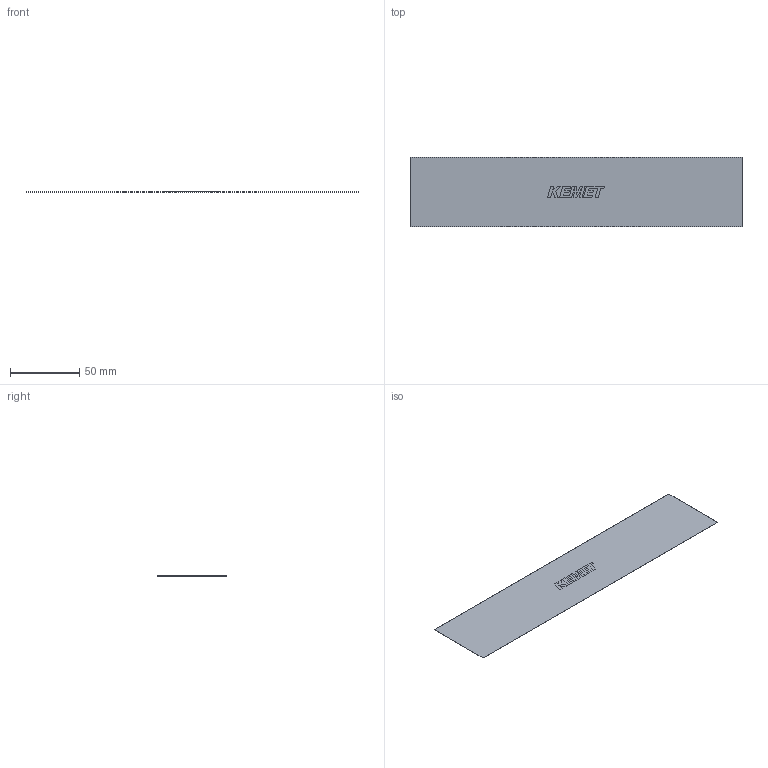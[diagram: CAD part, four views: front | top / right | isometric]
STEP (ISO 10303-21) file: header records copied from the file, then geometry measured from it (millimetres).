
FILE_DESCRIPTION (( 'STEP AP214' ), '1' );
FILE_NAME ('EFS_50_L240W50T0.1.STEP', '2018-06-19T21:52:01', ( '' ), ( '' ), 'SwSTEP 2.0', 'SolidWorks 2014', '' );
FILE_SCHEMA (( 'AUTOMOTIVE_DESIGN' ));
Length unit declared in the file: millimetre
Products named in the file (1): EFS_50_L240W50T0.1
Bounding box: 240 x 50 x 0.1 mm (x, y, z)
Volume: 1201 mm3; surface area: 24059.2 mm2
Topology: 1 solids, 1 shells, 60 faces, 165 edges, 110 vertices
Faces by surface type: plane 60
Entity records: 1969 total; most frequent: CARTESIAN_POINT 336, ORIENTED_EDGE 330, DIRECTION 287, LINE 165, EDGE_CURVE 165, VECTOR 165, VERTEX_POINT 110, EDGE_LOOP 63
